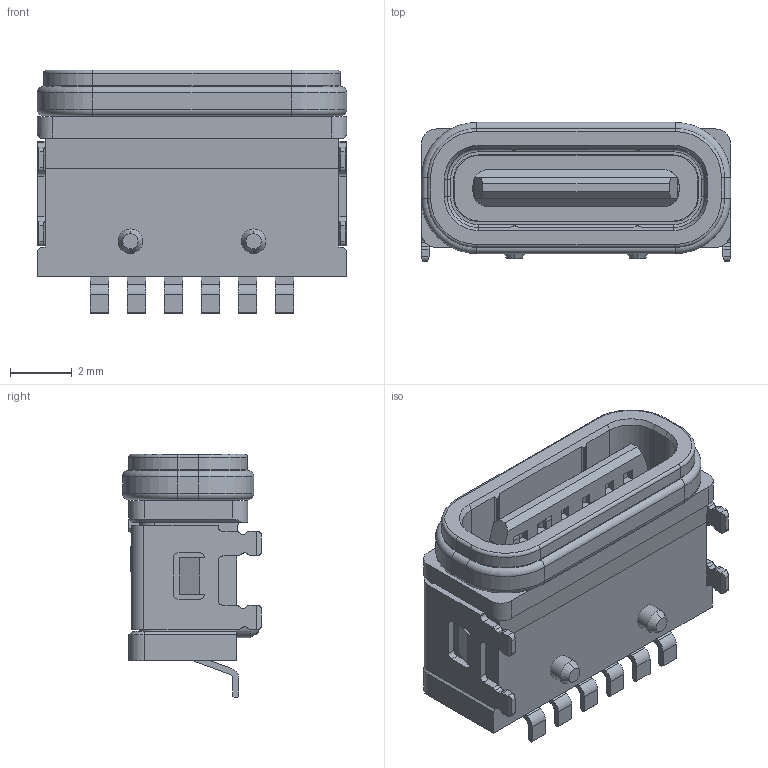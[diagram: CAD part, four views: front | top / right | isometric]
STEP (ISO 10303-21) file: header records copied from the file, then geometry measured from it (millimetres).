
FILE_DESCRIPTION (( 'STEP AP203' ), '1' );
FILE_NAME ('U5456-06PN6.7LF.STEP', '2026-09-22T06:46:13', ( '' ), ( '' ), 'SwSTEP 2.0', 'SolidWorks 2024', '' );
FILE_SCHEMA (( 'CONFIG_CONTROL_DESIGN' ));
Length unit declared in the file: millimetre
Products named in the file (1): U5456-06PN6.7LF
Bounding box: 10.04 x 4.51 x 7.9 mm (x, y, z)
Volume: 163.3 mm3; surface area: 623.5 mm2
Topology: 1 solids, 2 shells, 854 faces, 2266 edges, 1477 vertices
Faces by surface type: plane 606, cylinder 176, cone 31, bspline 25, torus 16
Entity records: 27773 total; most frequent: CARTESIAN_POINT 6548, ORIENTED_EDGE 4532, DIRECTION 4151, EDGE_CURVE 2266, LINE 1741, VECTOR 1741, VERTEX_POINT 1477, AXIS2_PLACEMENT_3D 1205
